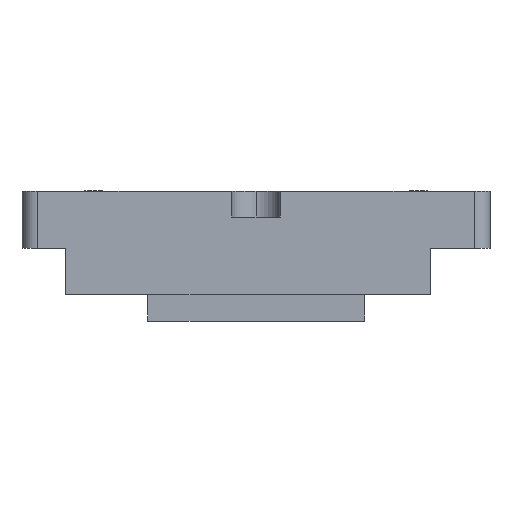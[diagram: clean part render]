
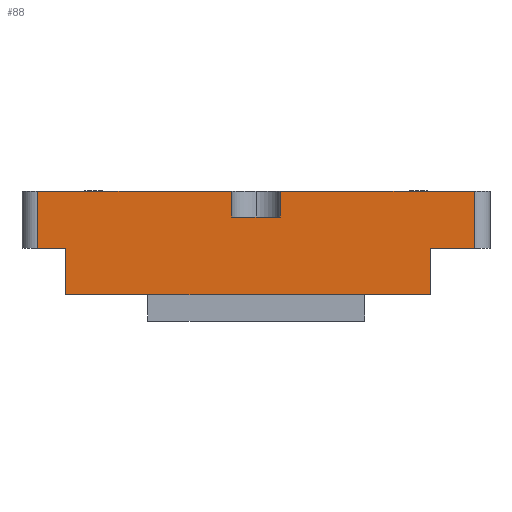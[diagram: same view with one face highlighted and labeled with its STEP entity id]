
A CAD part, left-side view. The second image highlights one B-rep face of the part: STEP entity #88.
In plain terms, the highlighted planar face has unit normal (-1, 0, 0).
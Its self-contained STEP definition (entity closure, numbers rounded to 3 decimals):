
#88=ADVANCED_FACE('',(#172),#804,.T.);
#172=FACE_OUTER_BOUND('',#265,.F.);
#265=EDGE_LOOP('',(#435,#436,#437,#438,#439,#440,#441,#442,#443,#444,#445,
#446,#447,#448));
#435=ORIENTED_EDGE('',*,*,#1251,.T.);
#436=ORIENTED_EDGE('',*,*,#1164,.T.);
#437=ORIENTED_EDGE('',*,*,#1163,.T.);
#438=ORIENTED_EDGE('',*,*,#1162,.T.);
#439=ORIENTED_EDGE('',*,*,#1161,.T.);
#440=ORIENTED_EDGE('',*,*,#1178,.F.);
#441=ORIENTED_EDGE('',*,*,#1206,.T.);
#442=ORIENTED_EDGE('',*,*,#1203,.T.);
#443=ORIENTED_EDGE('',*,*,#1253,.F.);
#444=ORIENTED_EDGE('',*,*,#1246,.F.);
#445=ORIENTED_EDGE('',*,*,#1247,.F.);
#446=ORIENTED_EDGE('',*,*,#1194,.T.);
#447=ORIENTED_EDGE('',*,*,#1197,.T.);
#448=ORIENTED_EDGE('',*,*,#1190,.T.);
#804=PLANE('',#1689);
#857=LINE('',#2418,#997);
#858=LINE('',#2419,#998);
#859=LINE('',#2420,#999);
#860=LINE('',#2421,#1000);
#864=LINE('',#2435,#1004);
#870=LINE('',#2447,#1010);
#874=LINE('',#2451,#1014);
#877=LINE('',#2454,#1017);
#883=LINE('',#2460,#1023);
#886=LINE('',#2463,#1026);
#910=LINE('',#2503,#1050);
#911=LINE('',#2504,#1051);
#915=LINE('',#2508,#1055);
#917=LINE('',#2510,#1057);
#997=VECTOR('',#1826,18.65);
#998=VECTOR('',#1827,2.5);
#999=VECTOR('',#1828,4.7);
#1000=VECTOR('',#1829,2.5);
#1004=VECTOR('',#1853,5.5);
#1010=VECTOR('',#1871,5.5);
#1014=VECTOR('',#1875,4.5);
#1017=VECTOR('',#1878,2.7);
#1023=VECTOR('',#1884,4.5);
#1026=VECTOR('',#1887,4.2);
#1050=VECTOR('',#1943,20.85);
#1051=VECTOR('',#1944,7.9);
#1055=VECTOR('',#1948,18.65);
#1057=VECTOR('',#1950,6.35);
#1161=EDGE_CURVE('',#1541,#1540,#857,.T.);
#1162=EDGE_CURVE('',#1539,#1541,#858,.T.);
#1163=EDGE_CURVE('',#1538,#1539,#859,.T.);
#1164=EDGE_CURVE('',#1537,#1538,#860,.T.);
#1178=EDGE_CURVE('',#1528,#1540,#864,.T.);
#1190=EDGE_CURVE('',#1517,#1515,#870,.T.);
#1194=EDGE_CURVE('',#1510,#1509,#874,.T.);
#1197=EDGE_CURVE('',#1509,#1517,#877,.T.);
#1203=EDGE_CURVE('',#1501,#1500,#883,.T.);
#1206=EDGE_CURVE('',#1528,#1501,#886,.T.);
#1246=EDGE_CURVE('',#1460,#1459,#910,.T.);
#1247=EDGE_CURVE('',#1510,#1460,#911,.T.);
#1251=EDGE_CURVE('',#1515,#1537,#915,.T.);
#1253=EDGE_CURVE('',#1459,#1500,#917,.T.);
#1459=VERTEX_POINT('',#2274);
#1460=VERTEX_POINT('',#2275);
#1500=VERTEX_POINT('',#2315);
#1501=VERTEX_POINT('',#2316);
#1509=VERTEX_POINT('',#2324);
#1510=VERTEX_POINT('',#2325);
#1515=VERTEX_POINT('',#2330);
#1517=VERTEX_POINT('',#2332);
#1528=VERTEX_POINT('',#2343);
#1537=VERTEX_POINT('',#2352);
#1538=VERTEX_POINT('',#2353);
#1539=VERTEX_POINT('',#2354);
#1540=VERTEX_POINT('',#2355);
#1541=VERTEX_POINT('',#2356);
#1689=AXIS2_PLACEMENT_3D('',#2615,#2086,#2087);
#1826=DIRECTION('',(0.,-1.,0.));
#1827=DIRECTION('',(0.,0.,1.));
#1828=DIRECTION('',(0.,-1.,0.));
#1829=DIRECTION('',(0.,0.,-1.));
#1853=DIRECTION('',(0.,0.,1.));
#1871=DIRECTION('',(0.,0.,1.));
#1875=DIRECTION('',(0.,0.,1.));
#1878=DIRECTION('',(0.,1.,0.));
#1884=DIRECTION('',(0.,0.,-1.));
#1887=DIRECTION('',(0.,1.,0.));
#1943=DIRECTION('',(0.,-1.,0.));
#1944=DIRECTION('',(0.,-1.,0.));
#1948=DIRECTION('',(0.,-1.,0.));
#1950=DIRECTION('',(0.,-1.,0.));
#2086=DIRECTION('',(-1.,0.,0.));
#2087=DIRECTION('',(0.,-1.,0.));
#2274=CARTESIAN_POINT('',(-14.,250.35,175.3));
#2275=CARTESIAN_POINT('',(-14.,271.2,175.3));
#2315=CARTESIAN_POINT('',(-14.,244.,175.3));
#2316=CARTESIAN_POINT('',(-14.,244.,179.8));
#2324=CARTESIAN_POINT('',(-14.,279.1,179.8));
#2325=CARTESIAN_POINT('',(-14.,279.1,175.3));
#2330=CARTESIAN_POINT('',(-14.,281.8,185.3));
#2332=CARTESIAN_POINT('',(-14.,281.8,179.8));
#2343=CARTESIAN_POINT('',(-14.,239.8,179.8));
#2352=CARTESIAN_POINT('',(-14.,263.15,185.3));
#2353=CARTESIAN_POINT('',(-14.,263.15,182.8));
#2354=CARTESIAN_POINT('',(-14.,258.45,182.8));
#2355=CARTESIAN_POINT('',(-14.,239.8,185.3));
#2356=CARTESIAN_POINT('',(-14.,258.45,185.3));
#2418=CARTESIAN_POINT('',(-14.,258.45,185.3));
#2419=CARTESIAN_POINT('',(-14.,258.45,182.8));
#2420=CARTESIAN_POINT('',(-14.,263.15,182.8));
#2421=CARTESIAN_POINT('',(-14.,263.15,185.3));
#2435=CARTESIAN_POINT('',(-14.,239.8,179.8));
#2447=CARTESIAN_POINT('',(-14.,281.8,179.8));
#2451=CARTESIAN_POINT('',(-14.,279.1,175.3));
#2454=CARTESIAN_POINT('',(-14.,279.1,179.8));
#2460=CARTESIAN_POINT('',(-14.,244.,179.8));
#2463=CARTESIAN_POINT('',(-14.,239.8,179.8));
#2503=CARTESIAN_POINT('',(-14.,271.2,175.3));
#2504=CARTESIAN_POINT('',(-14.,279.1,175.3));
#2508=CARTESIAN_POINT('',(-14.,281.8,185.3));
#2510=CARTESIAN_POINT('',(-14.,250.35,175.3));
#2615=CARTESIAN_POINT('',(-14.,283.75,174.85));
